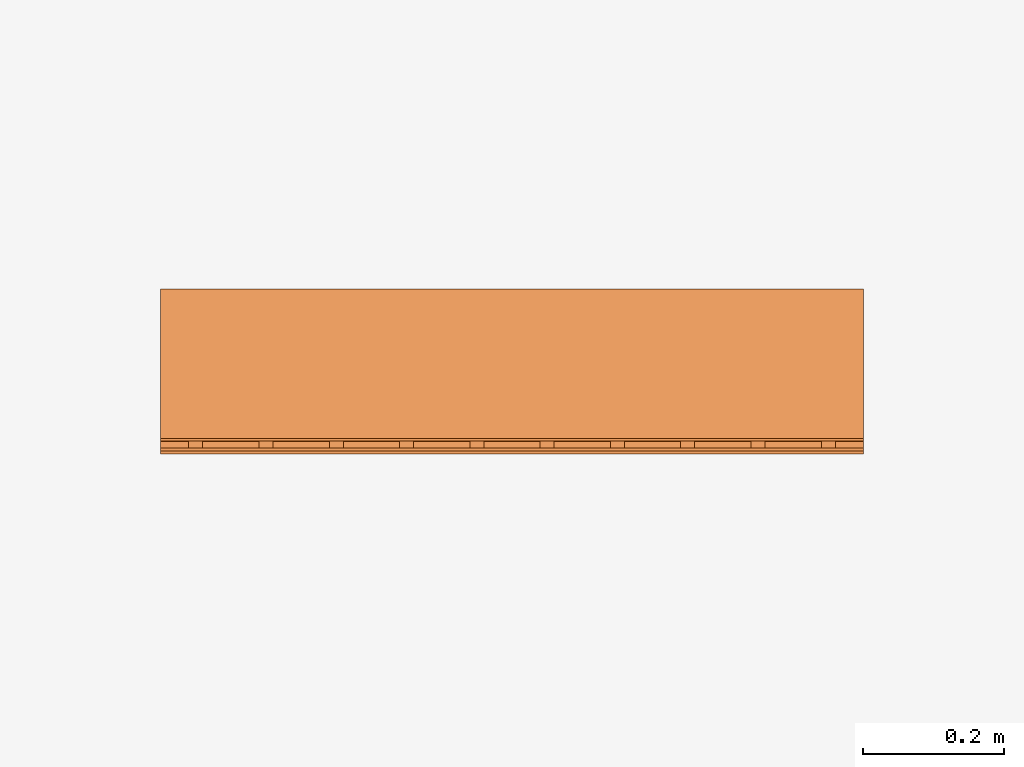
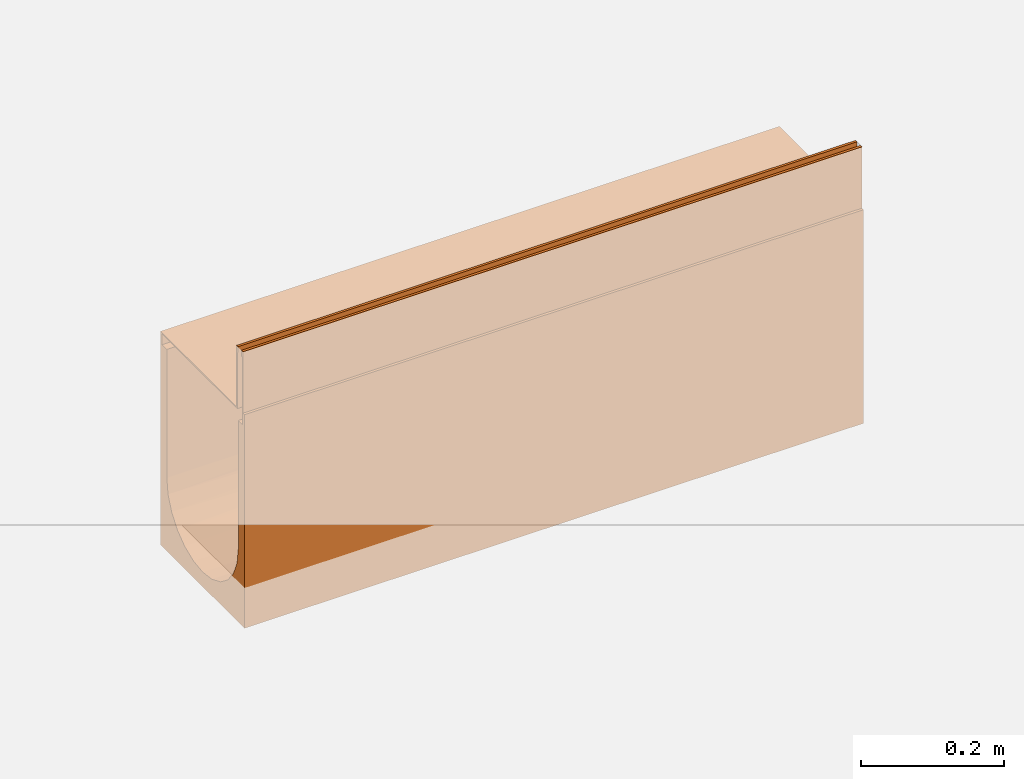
# One storey, part 2 of 2: 1 proxy.
"""IFC2X3 building model written with IfcOpenShell, lengths in millimetres."""

import ifcopenshell
import ifcopenshell.guid

model = None  # the IFC model being written
_history = None  # IfcOwnerHistory: only IFC2X3 demands one
_inside = {}  # id of a spatial element -> (the spatial element, [elements in it])
_under = {}  # id of a project, library or spatial element -> (it, [spatial elements below it])
_declared = {}  # id of a project -> (the project, [libraries it declares])
_typed = {}  # id of a type object -> (the type object, [elements of that type])
_made_of = {}  # id of a material, layer set ... -> (it, [elements and type objects made of it])


def new_model(schema):
    """Start an empty IFC model of exactly this schema.

    Asked for "IFC4X3", IfcOpenShell would pick the latest addendum, in which some entities
    have other attributes; the version numbers below select the first issue.
    IFC2X3 requires an IfcOwnerHistory on every rooted entity: one is made here for all.
    """
    global model, _history
    if schema == "IFC4X3":
        model = ifcopenshell.file(schema_version=(4, 3, 0, 0))
    else:
        model = ifcopenshell.file(schema=schema)
    _inside.clear()
    _under.clear()
    _declared.clear()
    _typed.clear()
    _made_of.clear()
    _history = None
    if model.schema == "IFC2X3":
        org = make("IfcOrganization", Name="unknown")
        user = make(
            "IfcPersonAndOrganization",
            ThePerson=make("IfcPerson", FamilyName="unknown"),
            TheOrganization=org,
        )
        app = make(
            "IfcApplication",
            ApplicationDeveloper=org,
            Version="unknown",
            ApplicationFullName="unknown",
            ApplicationIdentifier="unknown",
        )
        _history = make(
            "IfcOwnerHistory",
            OwningUser=user,
            OwningApplication=app,
            ChangeAction="ADDED",
            CreationDate=0,
        )
    return model


def make(cls, **values):
    """One entity of the class cls with the attributes given. An attribute that is None is left unset."""
    return model.create_entity(
        cls, **{name: value for name, value in values.items() if value is not None}
    )


def entity(cls, *values):
    """Any entity or typed value of the class cls, its attributes in the order of the schema. None: left unset."""
    e = model.create_entity(cls)
    for i, value in enumerate(values):
        if value is not None:
            e[i] = value
    return e


def rooted(cls, **values):
    """An entity with a GlobalId (a new one), such as an element, a storey or a relation."""
    return make(cls, GlobalId=ifcopenshell.guid.new(), OwnerHistory=_history, **values)


def si_unit(unit_type, name, prefix=None):
    """IfcSIUnit, for example si_unit("LENGTHUNIT", "METRE", prefix="MILLI")."""
    return make("IfcSIUnit", UnitType=unit_type, Prefix=prefix, Name=name)


def converted_unit(unit_type, name, factor, base, dimensions=None, offset=None):
    """IfcConversionBasedUnit, such as the inch: factor (a typed value) times the base unit."""
    return make(
        "IfcConversionBasedUnit"
        if offset is None
        else "IfcConversionBasedUnitWithOffset",
        ConversionOffset=offset,
        Dimensions=None
        if dimensions is None
        else entity("IfcDimensionalExponents", *dimensions),
        UnitType=unit_type,
        Name=name,
        ConversionFactor=make(
            "IfcMeasureWithUnit", ValueComponent=factor, UnitComponent=base
        ),
    )


def assignment(units):
    """IfcUnitAssignment: the units of a project."""
    return None if units is None else make("IfcUnitAssignment", Units=units)


def point(xyz):
    """IfcCartesianPoint."""
    return None if xyz is None else make("IfcCartesianPoint", Coordinates=xyz)


def direction(xyz):
    """IfcDirection."""
    return None if xyz is None else make("IfcDirection", DirectionRatios=xyz)


def frame(location, z_axis=None, x_axis=None):
    """IfcAxis2Placement3D, a coordinate frame: its origin and axes. An axis left out is left unset."""
    return make(
        "IfcAxis2Placement3D",
        Location=point(location),
        Axis=direction(z_axis),
        RefDirection=direction(x_axis),
    )


def origin():
    """The frame at (0, 0, 0) with its axes left unset."""
    return frame((0.0, 0.0, 0.0))


def place(relative_to, where):
    """IfcLocalPlacement: puts the frame where relative to a parent placement (None: the world)."""
    return make(
        "IfcLocalPlacement", PlacementRelTo=relative_to, RelativePlacement=where
    )


def context(
    kind, dimensions, precision=None, world=None, true_north=None, identifier=None
):
    """IfcGeometricRepresentationContext, for example the 3D "Model" context."""
    return make(
        "IfcGeometricRepresentationContext",
        ContextIdentifier=identifier,
        ContextType=kind,
        CoordinateSpaceDimension=dimensions,
        Precision=precision,
        WorldCoordinateSystem=world,
        TrueNorth=true_north,
    )


def subcontext(parent, identifier, kind, view, scale=None):
    """IfcGeometricRepresentationSubContext, for example "Body" below "Model"."""
    return make(
        "IfcGeometricRepresentationSubContext",
        ContextIdentifier=identifier,
        ContextType=kind,
        ParentContext=parent,
        TargetScale=scale,
        TargetView=view,
    )


def project(units=None, contexts=None):
    """IfcProject with its units and contexts."""
    return rooted(
        "IfcProject",
        Name="project",
        RepresentationContexts=contexts,
        UnitsInContext=assignment(units),
    )


def spatial(cls, under=None, at=None, **own):
    """A site, building, storey or space (cls), placed at a placement, below another one or the project."""
    s = rooted(cls, ObjectPlacement=at, **own)
    if under is not None:
        _under.setdefault(under.id(), (under, []))[1].append(s)
    return s


def faces_of(points, faces, orient=None, outer=None):
    """IfcFace entities. A face is a list of loops; a loop is a list of indices into points, from 0.

    orient and outer hold one flag for each loop. By default every Orientation is true, the
    first loop of a face is its IfcFaceOuterBound and the others are IfcFaceBound.
    """
    made = []
    for i, loops in enumerate(faces):
        bounds = []
        for j, loop in enumerate(loops):
            is_outer = j == 0 if outer is None else outer[i][j]
            bounds.append(
                make(
                    "IfcFaceOuterBound" if is_outer else "IfcFaceBound",
                    Bound=make("IfcPolyLoop", Polygon=[points[k] for k in loop]),
                    Orientation=True if orient is None else orient[i][j],
                )
            )
        made.append(make("IfcFace", Bounds=bounds))
    return made


def faceted_brep(points, faces, orient=None, outer=None, voids=None):
    """IfcFacetedBrep: a solid bounded by flat faces; with voids (closed shells), ...WithVoids."""
    shared = [point(p) for p in points]
    hull = make("IfcClosedShell", CfsFaces=faces_of(shared, faces, orient, outer))
    if voids is None:
        return make("IfcFacetedBrep", Outer=hull)
    return make(
        "IfcFacetedBrepWithVoids",
        Outer=hull,
        Voids=[
            make(cls, CfsFaces=faces_of(shared, fs, o, b)) for cls, fs, o, b in voids
        ],
    )


def shape(context_of_items, identifier, shape_type, items):
    """IfcShapeRepresentation: the items that make up one representation, for example the "Body"."""
    return make(
        "IfcShapeRepresentation",
        ContextOfItems=context_of_items,
        RepresentationIdentifier=identifier,
        RepresentationType=shape_type,
        Items=items,
    )


def source(mapping_origin, context_of_items, identifier, shape_type, items):
    """IfcRepresentationMap: a shape defined once, which mapped items show again and again."""
    return make(
        "IfcRepresentationMap",
        MappingOrigin=mapping_origin,
        MappedRepresentation=shape(context_of_items, identifier, shape_type, items),
    )


def transform(
    local_origin,
    x_axis=None,
    y_axis=None,
    z_axis=None,
    scale=None,
    scale2=None,
    scale3=None,
    uniform=True,
):
    """IfcCartesianTransformationOperator3D, or its non-uniform kind. x_axis, y_axis, z_axis: its Axis1, 2, 3."""
    if uniform:
        return make(
            "IfcCartesianTransformationOperator3D",
            Axis1=direction(x_axis),
            Axis2=direction(y_axis),
            LocalOrigin=point(local_origin),
            Scale=scale,
            Axis3=direction(z_axis),
        )
    return make(
        "IfcCartesianTransformationOperator3DnonUniform",
        Axis1=direction(x_axis),
        Axis2=direction(y_axis),
        LocalOrigin=point(local_origin),
        Scale=scale,
        Axis3=direction(z_axis),
        Scale2=scale2,
        Scale3=scale3,
    )


def mapped(mapping_source, mapping_target):
    """IfcMappedItem: shows the shape of a source again, moved by a transform."""
    return make(
        "IfcMappedItem", MappingSource=mapping_source, MappingTarget=mapping_target
    )


def material(Name=None, Category=None):
    """IfcMaterial."""
    return make("IfcMaterial", Name=Name, Category=Category)


def material_list(materials):
    """IfcMaterialList."""
    return make("IfcMaterialList", Materials=materials)


def made_of(thing, what):
    """Note that an element or type object is made of a material, layer set ...; save() writes the relation."""
    if what is not None:
        _made_of.setdefault(what.id(), (what, []))[1].append(thing)
    return thing


def element(
    cls,
    number,
    at=None,
    inside=None,
    cuts=None,
    type_object=None,
    material=None,
    context=None,
    identifier="Body",
    shape_type=None,
    held_by="IfcProductDefinitionShape",
    body=None,
    shapes=None,
    **own,
):
    """One element of the class cls, such as IfcWall. Its Tag is "e" and its number.

    at: its placement. inside: the storey or other place that contains it. cuts: it is an
    opening in that element (IfcRelVoidsElement). A single representation is given by context,
    identifier, shape_type and body (its items); several are given by shapes. held_by: the class
    of the entity that holds the representations. save() writes the other relations.
    """
    e = rooted(cls, Tag="e%d" % number, ObjectPlacement=at, **own)
    if body is not None:
        shapes = [shape(context, identifier, shape_type, body)]
    if shapes is not None:
        e.Representation = make(held_by, Representations=shapes)
    if inside is not None:
        _inside.setdefault(inside.id(), (inside, []))[1].append(e)
    if cuts is not None:
        rooted(
            "IfcRelVoidsElement", RelatingBuildingElement=cuts, RelatedOpeningElement=e
        )
    if type_object is not None:
        _typed.setdefault(type_object.id(), (type_object, []))[1].append(e)
    return made_of(e, material)


def aggregate(whole, parts):
    """IfcRelAggregates: a whole, such as a stair, and the parts it consists of."""
    return rooted("IfcRelAggregates", RelatingObject=whole, RelatedObjects=parts)


def save(model, path):
    """Write the relations noted so far, then the file.

    IfcRelAggregates (storeys below a building ...), IfcRelContainedInSpatialStructure (elements
    in a storey), IfcRelDefinesByType, IfcRelAssociatesMaterial and IfcRelDeclares: one each for
    every whole, place, type object, material and project.
    """
    for whole, parts in _under.values():
        aggregate(whole, parts)
    for where, things in _inside.values():
        rooted(
            "IfcRelContainedInSpatialStructure",
            RelatedElements=things,
            RelatingStructure=where,
        )
    for kind, things in _typed.values():
        rooted("IfcRelDefinesByType", RelatedObjects=things, RelatingType=kind)
    for what, things in _made_of.values():
        rooted("IfcRelAssociatesMaterial", RelatedObjects=things, RelatingMaterial=what)
    for by, libraries in _declared.values():
        rooted("IfcRelDeclares", RelatingContext=by, RelatedDefinitions=libraries)
    model.write(path)


model = new_model("IFC2X3")

# Units and contexts
model_context = context("Model", 3, precision=1e-06, world=origin(), true_north=direction((2.0, 6.12303176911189e-17, 1.0)))
context_of_model = context(None, 3, precision=1e-06, world=origin(), true_north=direction((2.0, 6.12303176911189e-17, 1.0)))
body_context = subcontext(model_context, "Body", "Model", "MODEL_VIEW")
ifc_project = project(units=[si_unit("LENGTHUNIT", "METRE", prefix="MILLI"), si_unit("AREAUNIT", "SQUARE_METRE", prefix="MILLI"), si_unit("VOLUMEUNIT", "CUBIC_METRE", prefix="MILLI"), converted_unit("PLANEANGLEUNIT", "DEGREE", entity("IfcRatioMeasure", 0.0174532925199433), si_unit("PLANEANGLEUNIT", "RADIAN"), dimensions=[0, 0, 0, 0, 0, 0, 0]), si_unit("TIMEUNIT", "SECOND")], contexts=[model_context, context_of_model])

# Site, building, storey
site_placement = place(None, origin())
site = spatial("IfcSite", under=ifc_project, at=site_placement, Name="Default", CompositionType="ELEMENT")
building_placement = place(site_placement, origin())
building = spatial("IfcBuilding", under=site, at=building_placement, CompositionType="ELEMENT")
storey_placement = place(building_placement, origin())
storey = spatial("IfcBuildingStorey", under=building, at=storey_placement, Name="Level 1", CompositionType="ELEMENT", Elevation=0.0)

# Proxy
ifc_material_1 = material(Name="Stainless Steel (F)")
ifc_material_2 = material(Name="Vienite® Synthetic Resin Concrete")
ifc_material_list = material_list([ifc_material_1, ifc_material_2])
shared_shape = source(origin(), body_context, "Body", "Brep", [
    faceted_brep([(113.25, 40.0, -107.0), (113.25, 42.0, -109.0), (113.25, 58.0, -109.0), (113.25, 60.0, -107.0), (113.25, 42.0, -123.499999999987), (113.25, 40.0, -125.499999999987), (113.25, 58.0, -123.499999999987), (113.25, 60.0, -125.499999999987), (-111.249999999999, 40.0, -125.499999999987), (-111.249999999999, 42.0, -123.499999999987), (-111.249999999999, 58.0, -123.499999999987), (-111.249999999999, 60.0, -125.499999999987), (-111.249999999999, 42.0, -109.0), (-111.249999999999, 40.0, -107.0), (-111.249999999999, 58.0, -109.0), (-111.249999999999, 60.0, -107.0)], [[[0, 1, 2, 3]], [[4, 1, 0, 5]], [[3, 2, 6, 7]], [[6, 4, 5, 7]], [[8, 9, 10, 11]], [[12, 9, 8, 13]], [[11, 10, 14, 15]], [[14, 12, 13, 15]], [[8, 5, 0, 13]], [[7, 5, 8, 11]], [[15, 3, 7, 11]], [[0, 3, 15, 13]], [[12, 1, 4, 9]], [[2, 1, 12, 14]], [[10, 6, 2, 14]], [[4, 6, 10, 9]]]),
    faceted_brep([(113.250000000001, 140.0, -107.0), (113.250000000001, 142.0, -109.0), (113.250000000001, 158.0, -109.0), (113.250000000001, 160.0, -107.0), (113.250000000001, 142.0, -123.499999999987), (113.250000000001, 140.0, -125.499999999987), (113.250000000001, 158.0, -123.499999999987), (113.250000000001, 160.0, -125.499999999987), (-111.249999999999, 140.0, -125.499999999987), (-111.249999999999, 142.0, -123.499999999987), (-111.249999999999, 158.0, -123.499999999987), (-111.249999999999, 160.0, -125.499999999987), (-111.249999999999, 142.0, -109.0), (-111.249999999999, 140.0, -107.0), (-111.249999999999, 158.0, -109.0), (-111.249999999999, 160.0, -107.0)], [[[0, 1, 2, 3]], [[4, 1, 0, 5]], [[3, 2, 6, 7]], [[6, 4, 5, 7]], [[8, 9, 10, 11]], [[12, 9, 8, 13]], [[11, 10, 14, 15]], [[14, 12, 13, 15]], [[8, 5, 0, 13]], [[7, 5, 8, 11]], [[15, 3, 7, 11]], [[0, 3, 15, 13]], [[1, 4, 9, 12]], [[2, 1, 12, 14]], [[10, 6, 2, 14]], [[4, 6, 10, 9]]]),
    faceted_brep([(113.250000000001, 240.0, -107.0), (113.250000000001, 242.0, -109.0), (113.250000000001, 258.0, -109.0), (113.250000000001, 260.0, -107.0), (113.250000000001, 242.0, -123.499999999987), (113.250000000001, 240.0, -125.499999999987), (113.250000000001, 258.0, -123.499999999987), (113.250000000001, 260.0, -125.499999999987), (-111.249999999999, 240.0, -125.499999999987), (-111.249999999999, 242.0, -123.499999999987), (-111.249999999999, 258.0, -123.499999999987), (-111.249999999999, 260.0, -125.499999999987), (-111.249999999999, 242.0, -109.0), (-111.249999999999, 240.0, -107.0), (-111.249999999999, 258.0, -109.0), (-111.249999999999, 260.0, -107.0)], [[[0, 1, 2, 3]], [[4, 1, 0, 5]], [[3, 2, 6, 7]], [[6, 4, 5, 7]], [[8, 9, 10, 11]], [[12, 9, 8, 13]], [[11, 10, 14, 15]], [[14, 12, 13, 15]], [[8, 5, 0, 13]], [[7, 5, 8, 11]], [[15, 3, 7, 11]], [[0, 3, 15, 13]], [[1, 4, 9, 12]], [[2, 1, 12, 14]], [[10, 6, 2, 14]], [[4, 6, 10, 9]]]),
    faceted_brep([(113.250000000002, 340.0, -107.0), (113.250000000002, 342.0, -109.0), (113.250000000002, 358.0, -109.0), (113.250000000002, 360.0, -107.0), (113.250000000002, 342.0, -123.499999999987), (113.250000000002, 340.0, -125.499999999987), (113.250000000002, 358.0, -123.499999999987), (113.250000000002, 360.0, -125.499999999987), (-111.249999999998, 340.0, -125.499999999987), (-111.249999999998, 342.0, -123.499999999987), (-111.249999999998, 358.0, -123.499999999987), (-111.249999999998, 360.0, -125.499999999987), (-111.249999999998, 342.0, -109.0), (-111.249999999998, 340.0, -107.0), (-111.249999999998, 358.0, -109.0), (-111.249999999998, 360.0, -107.0)], [[[0, 1, 2, 3]], [[4, 1, 0, 5]], [[3, 2, 6, 7]], [[6, 4, 5, 7]], [[8, 9, 10, 11]], [[12, 9, 8, 13]], [[11, 10, 14, 15]], [[14, 12, 13, 15]], [[8, 5, 0, 13]], [[7, 5, 8, 11]], [[15, 3, 7, 11]], [[0, 3, 15, 13]], [[1, 4, 9, 12]], [[2, 1, 12, 14]], [[10, 6, 2, 14]], [[4, 6, 10, 9]]]),
    faceted_brep([(113.250000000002, 440.0, -107.0), (113.250000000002, 442.0, -109.0), (113.250000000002, 458.0, -109.0), (113.250000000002, 460.0, -107.0), (113.250000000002, 442.0, -123.499999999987), (113.250000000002, 440.0, -125.499999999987), (113.250000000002, 458.0, -123.499999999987), (113.250000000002, 460.0, -125.499999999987), (-111.249999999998, 440.0, -125.499999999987), (-111.249999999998, 442.0, -123.499999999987), (-111.249999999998, 458.0, -123.499999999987), (-111.249999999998, 460.0, -125.499999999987), (-111.249999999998, 442.0, -109.0), (-111.249999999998, 440.0, -107.0), (-111.249999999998, 458.0, -109.0), (-111.249999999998, 460.0, -107.0)], [[[0, 1, 2, 3]], [[4, 1, 0, 5]], [[3, 2, 6, 7]], [[6, 4, 5, 7]], [[8, 9, 10, 11]], [[12, 9, 8, 13]], [[11, 10, 14, 15]], [[14, 12, 13, 15]], [[8, 5, 0, 13]], [[7, 5, 8, 11]], [[15, 3, 7, 11]], [[0, 3, 15, 13]], [[1, 4, 9, 12]], [[2, 1, 12, 14]], [[10, 6, 2, 14]], [[4, 6, 10, 9]]]),
    faceted_brep([(113.250000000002, 540.0, -107.0), (113.250000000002, 542.0, -109.0), (113.250000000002, 558.0, -109.0), (113.250000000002, 560.0, -107.0), (113.250000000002, 542.0, -123.499999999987), (113.250000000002, 540.0, -125.499999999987), (113.250000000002, 558.0, -123.499999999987), (113.250000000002, 560.0, -125.499999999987), (-111.249999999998, 540.0, -125.499999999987), (-111.249999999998, 542.0, -123.499999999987), (-111.249999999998, 558.0, -123.499999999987), (-111.249999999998, 560.0, -125.499999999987), (-111.249999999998, 542.0, -109.0), (-111.249999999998, 540.0, -107.0), (-111.249999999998, 558.0, -109.0), (-111.249999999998, 560.0, -107.0)], [[[0, 1, 2, 3]], [[4, 1, 0, 5]], [[3, 2, 6, 7]], [[6, 4, 5, 7]], [[8, 9, 10, 11]], [[12, 9, 8, 13]], [[11, 10, 14, 15]], [[14, 12, 13, 15]], [[8, 5, 0, 13]], [[7, 5, 8, 11]], [[15, 3, 7, 11]], [[0, 3, 15, 13]], [[1, 4, 9, 12]], [[14, 2, 1, 12]], [[10, 6, 2, 14]], [[9, 4, 6, 10]]]),
    faceted_brep([(113.250000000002, 640.0, -107.0), (113.250000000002, 642.0, -109.0), (113.250000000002, 658.0, -109.0), (113.250000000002, 660.0, -107.0), (113.250000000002, 642.0, -123.499999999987), (113.250000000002, 640.0, -125.499999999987), (113.250000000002, 658.0, -123.499999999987), (113.250000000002, 660.0, -125.499999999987), (-111.249999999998, 640.0, -125.499999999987), (-111.249999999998, 642.0, -123.499999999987), (-111.249999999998, 658.0, -123.499999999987), (-111.249999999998, 660.0, -125.499999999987), (-111.249999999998, 642.0, -109.0), (-111.249999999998, 640.0, -107.0), (-111.249999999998, 658.0, -109.0), (-111.249999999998, 660.0, -107.0)], [[[0, 1, 2, 3]], [[4, 1, 0, 5]], [[3, 2, 6, 7]], [[6, 4, 5, 7]], [[8, 9, 10, 11]], [[12, 9, 8, 13]], [[11, 10, 14, 15]], [[14, 12, 13, 15]], [[8, 5, 0, 13]], [[7, 5, 8, 11]], [[15, 3, 7, 11]], [[13, 0, 3, 15]], [[1, 4, 9, 12]], [[2, 1, 12, 14]], [[10, 6, 2, 14]], [[4, 6, 10, 9]]]),
    faceted_brep([(113.250000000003, 740.0, -107.0), (113.250000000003, 742.0, -109.0), (113.250000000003, 758.0, -109.0), (113.250000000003, 760.0, -107.0), (113.250000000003, 742.0, -123.499999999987), (113.250000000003, 740.0, -125.499999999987), (113.250000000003, 758.0, -123.499999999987), (113.250000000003, 760.0, -125.499999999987), (-111.249999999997, 740.0, -125.499999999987), (-111.249999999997, 742.0, -123.499999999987), (-111.249999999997, 758.0, -123.499999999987), (-111.249999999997, 760.0, -125.499999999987), (-111.249999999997, 742.0, -109.0), (-111.249999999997, 740.0, -107.0), (-111.249999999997, 758.0, -109.0), (-111.249999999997, 760.0, -107.0)], [[[0, 1, 2, 3]], [[4, 1, 0, 5]], [[3, 2, 6, 7]], [[6, 4, 5, 7]], [[8, 9, 10, 11]], [[12, 9, 8, 13]], [[11, 10, 14, 15]], [[14, 12, 13, 15]], [[8, 5, 0, 13]], [[7, 5, 8, 11]], [[15, 3, 7, 11]], [[13, 0, 3, 15]], [[1, 4, 9, 12]], [[2, 1, 12, 14]], [[10, 6, 2, 14]], [[4, 6, 10, 9]]]),
    faceted_brep([(113.250000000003, 840.0, -107.0), (113.250000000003, 842.0, -109.0), (113.250000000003, 858.0, -109.0), (113.250000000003, 860.0, -107.0), (113.250000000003, 842.0, -123.499999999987), (113.250000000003, 840.0, -125.499999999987), (113.250000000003, 858.0, -123.499999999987), (113.250000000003, 860.0, -125.499999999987), (-111.249999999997, 840.0, -125.499999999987), (-111.249999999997, 842.0, -123.499999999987), (-111.249999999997, 858.0, -123.499999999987), (-111.249999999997, 860.0, -125.499999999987), (-111.249999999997, 842.0, -109.0), (-111.249999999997, 840.0, -107.0), (-111.249999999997, 858.0, -109.0), (-111.249999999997, 860.0, -107.0)], [[[0, 1, 2, 3]], [[4, 1, 0, 5]], [[3, 2, 6, 7]], [[6, 4, 5, 7]], [[8, 9, 10, 11]], [[12, 9, 8, 13]], [[11, 10, 14, 15]], [[14, 12, 13, 15]], [[8, 5, 0, 13]], [[7, 5, 8, 11]], [[15, 3, 7, 11]], [[13, 0, 3, 15]], [[1, 4, 9, 12]], [[2, 1, 12, 14]], [[10, 6, 2, 14]], [[4, 6, 10, 9]]]),
    faceted_brep([(113.250000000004, 960.0, -107.0), (113.250000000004, 958.0, -109.0), (113.250000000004, 958.0, -123.499999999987), (113.250000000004, 960.0, -125.499999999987), (113.250000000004, 942.0, -109.0), (113.250000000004, 940.0, -107.0), (113.250000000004, 942.0, -123.499999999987), (113.250000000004, 940.0, -125.499999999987), (-111.249999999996, 940.0, -107.0), (-111.249999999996, 942.0, -109.0), (-111.249999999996, 942.0, -123.499999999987), (-111.249999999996, 940.0, -125.499999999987), (-111.249999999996, 958.0, -109.0), (-111.249999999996, 960.0, -107.0), (-111.249999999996, 958.0, -123.499999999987), (-111.249999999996, 960.0, -125.499999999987)], [[[0, 1, 2, 3]], [[4, 1, 0, 5]], [[3, 2, 6, 7]], [[6, 4, 5, 7]], [[8, 9, 10, 11]], [[12, 9, 8, 13]], [[11, 10, 14, 15]], [[14, 12, 13, 15]], [[13, 0, 3, 15]], [[15, 3, 7, 11]], [[11, 7, 5, 8]], [[5, 0, 13, 8]], [[2, 1, 12, 14]], [[1, 4, 9, 12]], [[9, 4, 6, 10]], [[6, 2, 14, 10]]]),
    faceted_brep([(-97.2500000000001, 0.0, -10.0), (-97.2500000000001, 0.0, -107.0), (-95.25, 0.0, -105.0), (-95.25, 0.0, 0.0), (-99.2500000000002, 0.0, 0.0), (-99.2500000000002, 0.0, -10.0), (113.25, 0.0, -107.0), (113.25, 0.0, -105.0), (-95.25, 1000.0, -105.0), (113.25, 1000.0, -105.0), (113.25, 1000.0, -107.0), (-97.2500000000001, 1000.0, -107.0), (-97.2500000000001, 1000.0, -10.0), (-95.25, 1000.0, 0.0), (-99.2500000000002, 1000.0, -10.0), (-99.2500000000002, 1000.0, 0.0)], [[[0, 1, 2, 3]], [[4, 5, 0, 3]], [[6, 7, 2, 1]], [[8, 9, 10, 11]], [[12, 13, 8, 11]], [[12, 14, 15, 13]], [[0, 5, 14, 12]], [[11, 1, 0, 12]], [[10, 6, 1, 11]], [[2, 7, 9, 8]], [[3, 2, 8, 13]], [[15, 4, 3, 13]], [[5, 4, 15, 14]], [[9, 7, 6, 10]]]),
    faceted_brep([(-109.25, 1000.0, 0.0), (-109.25, 1000.0, -10.0), (-111.25, 1000.0, -10.0), (-113.25, 1000.0, 0.0), (-113.25, 1000.0, -125.499999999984), (-111.25, 1000.0, -125.499999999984), (-111.25, 0.0, -10.0), (-113.25, 0.0, 0.0), (-113.25, 0.0, -125.499999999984), (-111.25, 0.0, -125.499999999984), (-109.25, 0.0, 0.0), (-109.25, 0.0, -10.0)], [[[0, 1, 2, 3]], [[4, 3, 2, 5]], [[6, 7, 8, 9]], [[10, 7, 6, 11]], [[9, 8, 4, 5]], [[6, 9, 5, 2]], [[11, 6, 2, 1]], [[10, 11, 1, 0]], [[3, 7, 10, 0]], [[4, 8, 7, 3]]]),
    faceted_brep([(113.25, 1000.0, -105.0), (117.5, 1000.0, -105.0), (113.25, 1000.0, -125.50000000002), (100.0, 1000.0, -345.0), (100.0, 1000.0, -125.5), (117.5, 1000.0, -470.0), (-117.5, 1000.0, -105.0), (-113.25, 1000.0, -105.0), (-113.25, 1000.0, -125.500000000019), (-100.0, 1000.0, -345.0), (-117.5, 1000.0, -470.0), (-100.0, 1000.0, -125.500000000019), (96.5925826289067, 1000.0, -370.881904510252), (70.7106781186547, 1000.0, -415.710678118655), (86.6025403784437, 1000.0, -395.0), (50.0, 1000.0, -431.602540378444), (0.0, 1000.0, -445.0), (25.8819045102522, 1000.0, -441.592582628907), (-86.6025403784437, 1000.0, -395.0), (-70.7106781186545, 1000.0, -415.710678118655), (-96.5925826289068, 1000.0, -370.881904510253), (-50.0, 1000.0, -431.602540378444), (-25.8819045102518, 1000.0, -441.592582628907), (117.5, 0.0, -470.0), (25.8819045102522, 0.0, -441.592582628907), (0.0, 0.0, -445.0), (50.0, 0.0, -431.602540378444), (70.7106781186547, 0.0, -415.710678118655), (86.6025403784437, 0.0, -395.0), (96.5925826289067, 0.0, -370.881904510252), (-25.8819045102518, 0.0, -441.592582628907), (-117.5, 0.0, -470.0), (-50.0, 0.0, -431.602540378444), (-70.7106781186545, 0.0, -415.710678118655), (-86.6025403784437, 0.0, -395.0), (-96.5925826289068, 0.0, -370.881904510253), (100.0, 0.0, -345.0), (100.0, 0.0, -125.5), (113.25, 0.0, -125.50000000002), (117.5, 0.0, -105.0), (113.25, 0.0, -105.0), (-100.0, 0.0, -345.0), (-100.0, 0.0, -125.500000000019), (-113.25, 0.0, -125.500000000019), (-113.25, 0.0, -105.0), (-117.5, 0.0, -105.0), (-20.7055236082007, 47.7259338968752, -470.0), (0.0, 45.0, -470.0), (-40.0, 55.7179676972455, -470.0), (-77.2740661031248, 104.294476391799, -470.0), (-69.2820323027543, 85.0, -470.0), (-56.5685424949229, 68.4314575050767, -470.0), (-80.0, 125.0, -470.0), (20.7055236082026, 47.7259338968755, -470.0), (40.0, 55.7179676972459, -470.0), (56.5685424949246, 68.4314575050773, -470.0), (69.2820323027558, 85.0, -470.0), (77.2740661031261, 104.294476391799, -470.0), (80.0, 125.0, -470.0), (77.2740661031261, 145.705523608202, -470.0), (-77.2740661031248, 145.705523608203, -470.0), (-69.2820323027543, 165.0, -470.0), (-56.5685424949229, 181.568542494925, -470.0), (-40.0, 194.282032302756, -470.0), (-20.7055236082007, 202.274066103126, -470.0), (0.0, 205.0, -470.0), (69.2820323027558, 165.0, -470.0), (56.5685424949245, 181.568542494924, -470.0), (20.7055236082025, 202.274066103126, -470.0), (40.0, 194.282032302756, -470.0), (100.0, 500.0, -345.0), (-100.0, 500.0, -345.0), (79.3353338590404, 467.006348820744, -405.876143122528), (38.2683432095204, 532.993650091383, -437.387953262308), (13.0526192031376, 500.0, -444.144486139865), (92.3879530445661, 499.999995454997, -383.268343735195), (98.0785279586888, 394.670893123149, -364.509032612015), (60.8761427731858, 500.0, -424.335334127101), (-92.3879532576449, 500.0, -383.268343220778), (-98.0785280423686, 605.329099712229, -364.50903219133), (-60.8761429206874, 467.006350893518, -424.335334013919), (-38.2683432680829, 500.0, -437.38795323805), (-13.0526192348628, 532.993648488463, -444.144486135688), (-79.3353340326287, 532.993648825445, -405.876142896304), (-56.5685424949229, 181.568542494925, -460.0), (-40.0, 194.282032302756, -460.0), (-20.7055236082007, 202.274066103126, -460.0), (40.0, 194.282032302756, -460.0), (-80.0, 125.0, -460.0), (-77.2740661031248, 145.705523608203, -460.0), (-69.2820323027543, 165.0, -460.0), (77.2740661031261, 145.705523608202, -460.0), (0.0, 205.0, -460.0), (20.7055236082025, 202.274066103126, -460.0), (56.5685424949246, 181.568542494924, -460.0), (69.2820323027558, 165.0, -460.0), (-77.2740661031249, 104.294476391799, -460.0), (80.0, 125.0, -460.0), (-56.5685424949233, 68.4314575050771, -460.0), (-69.2820323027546, 85.0, -460.0), (-40.0, 55.7179676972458, -460.0), (0.0, 45.0, -460.0), (-20.7055236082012, 47.7259338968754, -460.0), (40.0, 55.7179676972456, -460.0), (77.2740661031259, 104.294476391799, -460.0), (69.2820323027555, 85.0, -460.0), (56.5685424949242, 68.4314575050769, -460.0), (20.7055236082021, 47.7259338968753, -460.0)], [[[0, 1, 2]], [[2, 3, 4]], [[3, 2, 1, 5]], [[6, 7, 8]], [[6, 8, 9, 10]], [[11, 9, 8]], [[3, 5, 12]], [[13, 14, 5]], [[15, 13, 5]], [[16, 17, 5, 10]], [[5, 17, 15]], [[14, 12, 5]], [[18, 19, 10]], [[20, 18, 10]], [[21, 22, 10]], [[10, 22, 16]], [[21, 10, 19]], [[20, 10, 9]], [[23, 24, 25]], [[24, 23, 26]], [[27, 26, 23]], [[28, 27, 23]], [[23, 29, 28]], [[25, 30, 31, 23]], [[31, 30, 32]], [[33, 34, 31]], [[32, 33, 31]], [[31, 34, 35]], [[36, 29, 23]], [[37, 36, 38]], [[38, 39, 40]], [[39, 38, 36, 23]], [[41, 42, 43]], [[35, 41, 31]], [[43, 44, 45]], [[41, 43, 45, 31]], [[7, 44, 43, 8]], [[45, 44, 7, 6]], [[10, 31, 45, 6]], [[31, 46, 47, 23]], [[46, 31, 48]], [[49, 50, 31]], [[51, 48, 31]], [[50, 51, 31]], [[31, 52, 49]], [[23, 53, 54]], [[53, 23, 47]], [[23, 54, 55]], [[55, 56, 23]], [[57, 58, 23]], [[56, 57, 23]], [[23, 58, 59, 5]], [[60, 52, 31, 10]], [[61, 60, 10]], [[62, 10, 63]], [[10, 62, 61]], [[64, 63, 10]], [[65, 64, 10, 5]], [[66, 67, 5]], [[59, 66, 5]], [[68, 65, 5]], [[69, 5, 67]], [[5, 69, 68]], [[1, 39, 23, 5]], [[0, 40, 39, 1]], [[38, 40, 0, 2]], [[4, 37, 38, 2]], [[3, 70, 37, 4]], [[11, 42, 41, 71]], [[8, 43, 42, 11]], [[72, 27, 28]], [[73, 74, 24]], [[28, 29, 75]], [[75, 29, 76]], [[27, 77, 26]], [[78, 79, 35]], [[70, 76, 36]], [[75, 72, 28]], [[71, 79, 9]], [[73, 24, 26]], [[14, 75, 12]], [[70, 3, 12]], [[76, 29, 36]], [[74, 25, 24]], [[80, 33, 32]], [[72, 75, 14]], [[20, 9, 79]], [[14, 13, 72]], [[15, 73, 77]], [[21, 81, 22]], [[17, 73, 15]], [[82, 81, 30]], [[17, 16, 74]], [[15, 77, 13]], [[32, 30, 81]], [[83, 80, 19]], [[35, 79, 71]], [[80, 32, 81]], [[35, 34, 78]], [[83, 34, 33]], [[82, 22, 81]], [[78, 34, 83]], [[19, 80, 21]], [[41, 35, 71]], [[30, 25, 82]], [[22, 82, 16]], [[72, 77, 27]], [[82, 74, 16]], [[12, 76, 70]], [[80, 81, 21]], [[73, 17, 74]], [[18, 78, 83]], [[83, 19, 18]], [[77, 73, 26]], [[20, 79, 78]], [[77, 72, 13]], [[74, 82, 25]], [[33, 80, 83]], [[75, 76, 12]], [[20, 78, 18]], [[84, 85, 86, 87]], [[84, 88, 89, 90]], [[88, 84, 87, 91]], [[86, 92, 93, 87]], [[87, 94, 95, 91]], [[96, 88, 91, 97]], [[98, 99, 96, 100]], [[101, 102, 100, 103]], [[97, 100, 96]], [[104, 105, 106, 103]], [[97, 104, 103, 100]], [[103, 107, 101]], [[91, 59, 58, 97]], [[95, 66, 59, 91]], [[87, 69, 67, 94]], [[94, 67, 66, 95]], [[93, 68, 69, 87]], [[68, 93, 92, 65]], [[86, 64, 65, 92]], [[85, 63, 64, 86]], [[90, 61, 62, 84]], [[84, 62, 63, 85]], [[89, 60, 61, 90]], [[60, 89, 88, 52]], [[96, 49, 52, 88]], [[99, 50, 49, 96]], [[100, 48, 51, 98]], [[98, 51, 50, 99]], [[102, 46, 48, 100]], [[46, 102, 101, 47]], [[107, 53, 47, 101]], [[103, 54, 53, 107]], [[105, 56, 55, 106]], [[106, 55, 54, 103]], [[104, 57, 56, 105]], [[104, 97, 58, 57]], [[37, 70, 36]], [[11, 71, 9]]]),
])
proxy_placement = place(storey_placement, frame((120.697437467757, 206.508415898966, 0.0), z_axis=(0.0, 0.0, 1.0), x_axis=(0.0, 1.0, 0.0)))
element("IfcBuildingElementProxy", 1, at=proxy_placement, inside=storey, material=ifc_material_list, Name="Civil-Drainage-Channel-ACO-MultiDrain-M200DS-Brickslot-Channel-System:24212 - No 20.0 Constant Depth Channel - 1000mm LG - Invert Depth 340mm:24212 - No 20.0 Constant Depth Channel - 1000mm LG - Invert Depth 340mm", ObjectType="24212 - No 20.0 Constant Depth Channel - 1000mm LG - Invert Depth 340mm", CompositionType="ELEMENT", context=body_context, shape_type="MappedRepresentation", body=[
    mapped(shared_shape, transform((0.0, 0.0, 0.0), scale=1.0)),
])

save(model, "model.ifc")
